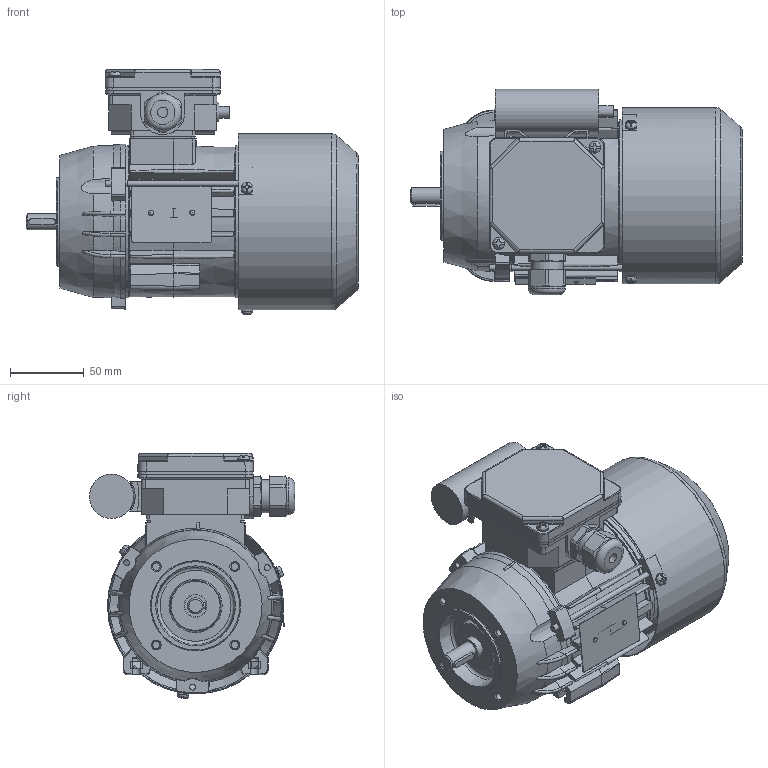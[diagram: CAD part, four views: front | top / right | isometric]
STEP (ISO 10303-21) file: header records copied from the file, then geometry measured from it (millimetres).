
FILE_DESCRIPTION(/* description */ ('Unknown'),/* implementation_level */ '2;1');
FILE_NAME(/* name */ '3SSIEK63-4A2',/* time_stamp */ '2024-06-17T09:06:23+02:00',/* author */ ('Unknown'),/* organization */ ('Unknown'),/* preprocessor_version */ 'ST-DEVELOPER v16.7',/* originating_system */ 'Solid Edge',/* authorisation */ 'Unknown');
FILE_SCHEMA (('AUTOMOTIVE_DESIGN {1 0 10303 214 3 1 1}'));
Length unit declared in the file: millimetre
Products named in the file (1): Czêœæ4
Bounding box: 224.49 x 138.82 x 165.7 mm (x, y, z)
Volume: 545364.2 mm3; surface area: 329977.9 mm2
Topology: 3 solids, 3 shells, 1979 faces, 5509 edges, 3535 vertices
Faces by surface type: plane 932, cylinder 529, bspline 197, cone 158, torus 134, sphere 29
Full cylindrical faces by diameter (mm): 2.4 x2, 3 x1, 3.7 x5, 4 x6, 4.5 x5, 4.6 x1, 4.8 x2, 5 x10, 6.5 x1, 7 x2, 7.999 x1, 8 x6, 10.999 x1, 12.899 x1, 13.099 x1, 14.998 x2, 15.4 x2, 18.998 x2, 19.498 x1, 19.998 x1, 20.098 x1, 21.518 x4, 22.3 x1, 25 x1, 28 x2, 28.48 x4, 29.997 x1, 31 x2, 35 x3, 60 x1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
Entity records: 80786 total; most frequent: CARTESIAN_POINT 19089, ORIENTED_EDGE 10330, DIRECTION 9373, EDGE_CURVE 5165, AXIS2_PLACEMENT_3D 3506, VERTEX_POINT 3418, LINE 2361, VECTOR 2361
